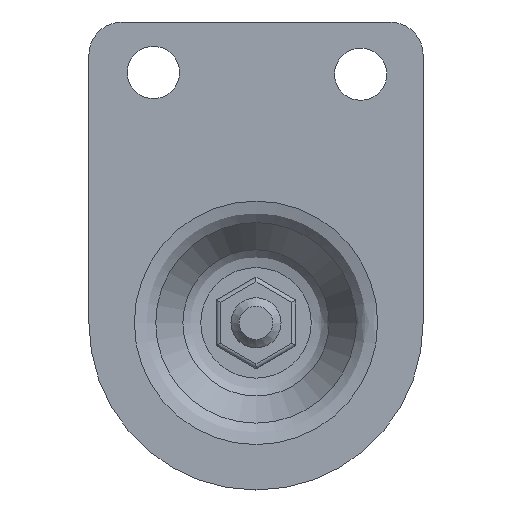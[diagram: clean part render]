
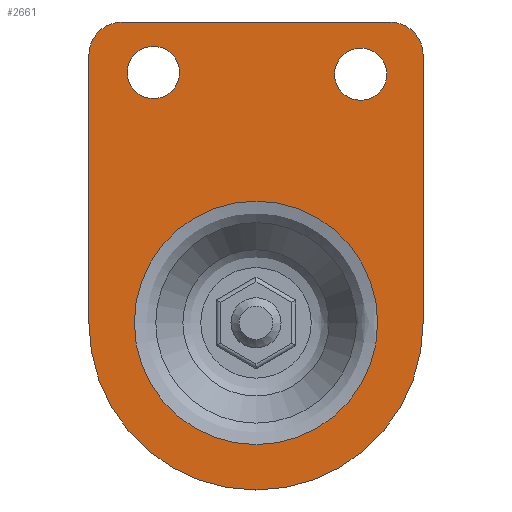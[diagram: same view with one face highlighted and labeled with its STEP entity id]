
A CAD part, front view. The second image highlights one B-rep face of the part: STEP entity #2661.
In plain terms, the highlighted planar face has unit normal (0, -1, 0).
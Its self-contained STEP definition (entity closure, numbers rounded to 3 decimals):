
#2037=CARTESIAN_POINT('',(1320.05,954.545,0.0));
#2038=VERTEX_POINT('',#2037);
#2046=CARTESIAN_POINT('',(1261.806,954.545,0.0));
#2047=VERTEX_POINT('',#2046);
#2048=CARTESIAN_POINT('',(1290.928,954.545,0.0));
#2049=DIRECTION('',(0.0,-1.0,0.0));
#2050=DIRECTION('',(1.0,0.0,0.0));
#2051=AXIS2_PLACEMENT_3D('',#2048,#2049,#2050);
#2052=CIRCLE('',#2051,29.122);
#2053=EDGE_CURVE('',#2038,#2047,#2052,.T.);
#2055=CARTESIAN_POINT('',(1290.928,954.545,0.0));
#2056=DIRECTION('',(0.0,-1.0,0.0));
#2057=DIRECTION('',(1.0,0.0,0.0));
#2058=AXIS2_PLACEMENT_3D('',#2055,#2056,#2057);
#2059=CIRCLE('',#2058,29.122);
#2060=EDGE_CURVE('',#2047,#2038,#2059,.T.);
#2073=CARTESIAN_POINT('',(1250.928,954.545,0.));
#2074=VERTEX_POINT('',#2073);
#2075=CARTESIAN_POINT('',(1330.928,954.545,0.0));
#2076=VERTEX_POINT('',#2075);
#2077=CARTESIAN_POINT('',(1290.928,954.545,0.0));
#2078=DIRECTION('',(0.0,-1.0,0.0));
#2079=DIRECTION('',(1.0,0.0,0.0));
#2080=AXIS2_PLACEMENT_3D('',#2077,#2078,#2079);
#2081=CIRCLE('',#2080,40.);
#2082=EDGE_CURVE('',#2074,#2076,#2081,.T.);
#2389=CARTESIAN_POINT('',(1330.928,954.545,64.0));
#2390=VERTEX_POINT('',#2389);
#2391=CARTESIAN_POINT('',(1330.928,954.545,0.0));
#2392=DIRECTION('',(0.0,0.0,1.0));
#2393=VECTOR('',#2392,64.0);
#2394=LINE('',#2391,#2393);
#2395=EDGE_CURVE('',#2076,#2390,#2394,.T.);
#2430=CARTESIAN_POINT('',(1322.928,954.545,72.0));
#2431=VERTEX_POINT('',#2430);
#2438=CARTESIAN_POINT('',(1322.928,954.545,64.0));
#2439=DIRECTION('',(0.0,-1.0,0.0));
#2440=DIRECTION('',(1.0,0.0,0.0));
#2441=AXIS2_PLACEMENT_3D('',#2438,#2439,#2440);
#2442=CIRCLE('',#2441,8.0);
#2443=EDGE_CURVE('',#2390,#2431,#2442,.T.);
#2462=CARTESIAN_POINT('',(1258.928,954.545,72.0));
#2463=VERTEX_POINT('',#2462);
#2470=CARTESIAN_POINT('',(1322.928,954.545,72.0));
#2471=DIRECTION('',(-1.0,0.0,0.0));
#2472=VECTOR('',#2471,64.0);
#2473=LINE('',#2470,#2472);
#2474=EDGE_CURVE('',#2431,#2463,#2473,.T.);
#2494=CARTESIAN_POINT('',(1250.928,954.545,64.0));
#2495=VERTEX_POINT('',#2494);
#2502=CARTESIAN_POINT('',(1258.928,954.545,64.0));
#2503=DIRECTION('',(0.0,-1.0,0.0));
#2504=DIRECTION('',(-1.0,0.0,0.0));
#2505=AXIS2_PLACEMENT_3D('',#2502,#2503,#2504);
#2506=CIRCLE('',#2505,8.0);
#2507=EDGE_CURVE('',#2463,#2495,#2506,.T.);
#2525=CARTESIAN_POINT('',(1250.928,954.545,64.0));
#2526=DIRECTION('',(0.0,0.0,-1.0));
#2527=VECTOR('',#2526,64.0);
#2528=LINE('',#2525,#2527);
#2529=EDGE_CURVE('',#2495,#2074,#2528,.T.);
#2541=CARTESIAN_POINT('',(1266.361,954.545,66.166));
#2542=VERTEX_POINT('',#2541);
#2549=CARTESIAN_POINT('',(1266.361,954.545,53.666));
#2550=VERTEX_POINT('',#2549);
#2551=CARTESIAN_POINT('',(1266.361,954.545,59.916));
#2552=DIRECTION('',(0.0,1.0,0.0));
#2553=DIRECTION('',(0.0,0.0,1.0));
#2554=AXIS2_PLACEMENT_3D('',#2551,#2552,#2553);
#2555=CIRCLE('',#2554,6.25);
#2556=EDGE_CURVE('',#2550,#2542,#2555,.T.);
#2558=CARTESIAN_POINT('',(1266.361,954.545,59.916));
#2559=DIRECTION('',(0.0,1.0,0.0));
#2560=DIRECTION('',(0.0,0.0,1.0));
#2561=AXIS2_PLACEMENT_3D('',#2558,#2559,#2560);
#2562=CIRCLE('',#2561,6.25);
#2563=EDGE_CURVE('',#2542,#2550,#2562,.T.);
#2592=CARTESIAN_POINT('',(1315.988,954.545,65.765));
#2593=VERTEX_POINT('',#2592);
#2600=CARTESIAN_POINT('',(1315.988,954.545,53.265));
#2601=VERTEX_POINT('',#2600);
#2602=CARTESIAN_POINT('',(1315.988,954.545,59.515));
#2603=DIRECTION('',(0.0,1.0,0.0));
#2604=DIRECTION('',(0.0,0.0,1.0));
#2605=AXIS2_PLACEMENT_3D('',#2602,#2603,#2604);
#2606=CIRCLE('',#2605,6.25);
#2607=EDGE_CURVE('',#2601,#2593,#2606,.T.);
#2609=CARTESIAN_POINT('',(1315.988,954.545,59.515));
#2610=DIRECTION('',(0.0,1.0,0.0));
#2611=DIRECTION('',(0.0,0.0,1.0));
#2612=AXIS2_PLACEMENT_3D('',#2609,#2610,#2611);
#2613=CIRCLE('',#2612,6.25);
#2614=EDGE_CURVE('',#2593,#2601,#2613,.T.);
#2636=CARTESIAN_POINT('',(1250.917,954.545,-40.01));
#2637=DIRECTION('',(0.0,1.0,0.0));
#2638=DIRECTION('',(0.0,0.0,1.0));
#2639=AXIS2_PLACEMENT_3D('',#2636,#2637,#2638);
#2640=PLANE('',#2639);
#2641=ORIENTED_EDGE('',*,*,#2082,.T.);
#2642=ORIENTED_EDGE('',*,*,#2395,.T.);
#2643=ORIENTED_EDGE('',*,*,#2443,.T.);
#2644=ORIENTED_EDGE('',*,*,#2474,.T.);
#2645=ORIENTED_EDGE('',*,*,#2507,.T.);
#2646=ORIENTED_EDGE('',*,*,#2529,.T.);
#2647=EDGE_LOOP('',(#2641,#2642,#2643,#2644,#2645,#2646));
#2648=FACE_OUTER_BOUND('',#2647,.T.);
#2649=ORIENTED_EDGE('',*,*,#2060,.F.);
#2650=ORIENTED_EDGE('',*,*,#2053,.F.);
#2651=EDGE_LOOP('',(#2649,#2650));
#2652=FACE_BOUND('',#2651,.T.);
#2653=ORIENTED_EDGE('',*,*,#2563,.T.);
#2654=ORIENTED_EDGE('',*,*,#2556,.T.);
#2655=EDGE_LOOP('',(#2653,#2654));
#2656=FACE_BOUND('',#2655,.T.);
#2657=ORIENTED_EDGE('',*,*,#2614,.T.);
#2658=ORIENTED_EDGE('',*,*,#2607,.T.);
#2659=EDGE_LOOP('',(#2657,#2658));
#2660=FACE_BOUND('',#2659,.T.);
#2661=ADVANCED_FACE('',(#2648,#2652,#2656,#2660),#2640,.F.);
